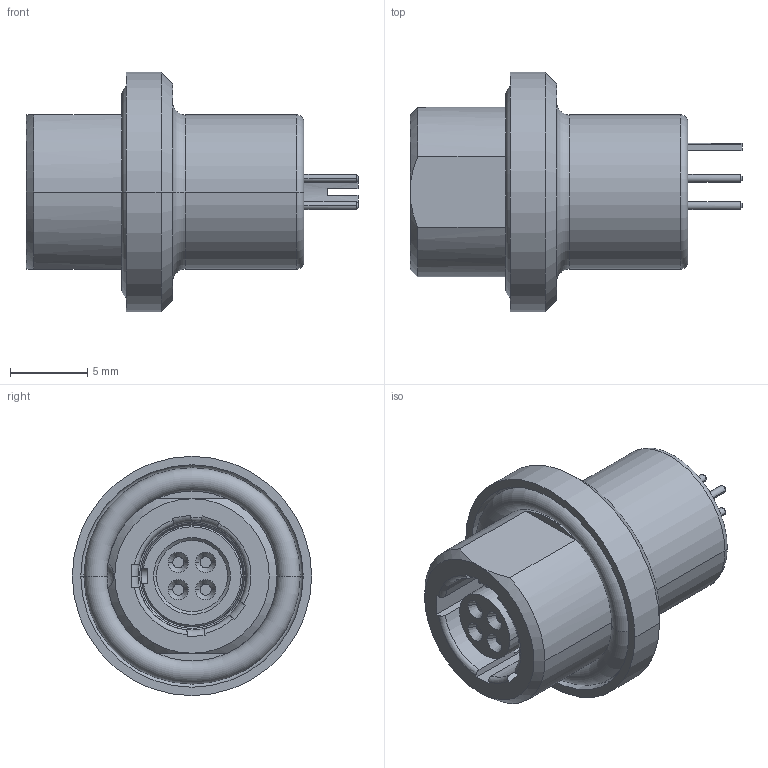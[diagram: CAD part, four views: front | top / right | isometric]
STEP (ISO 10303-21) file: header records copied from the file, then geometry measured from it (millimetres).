
FILE_DESCRIPTION((''),'2;1');
FILE_NAME('G80Y_R-P04UF00-000L_WITHOUT_HEX','2020-10-13T09:24:35',('EUnterhaslberger'),(''),'CREO PARAMETRIC BY PTC INC, 2018300','CREO PARAMETRIC BY PTC INC, 2018300','');
FILE_SCHEMA(('AP242_MANAGED_MODEL_BASED_3D_ENGINEERING_MIM_LF { 1 0 10303 442 1 1 4 }'));
Length unit declared in the file: millimetre
Products named in the file (1): G80Y_R-P04UF00-000L_WITHOUT_HEX
Bounding box: 21.5 x 15.5 x 15.5 mm (x, y, z)
Volume: 1521.6 mm3; surface area: 1792.6 mm2
Topology: 2 solids, 3 shells, 164 faces, 417 edges, 271 vertices
Faces by surface type: plane 53, cylinder 48, torus 30, cone 30, sphere 3
Entity records: 6385 total; most frequent: CARTESIAN_POINT 1142, DIRECTION 893, ORIENTED_EDGE 830, EDGE_CURVE 415, AXIS2_PLACEMENT_3D 366, VERTEX_POINT 271, CIRCLE 202, EDGE_LOOP 180
